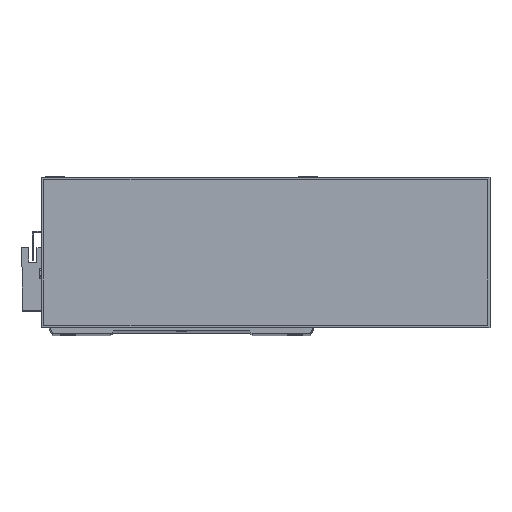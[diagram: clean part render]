
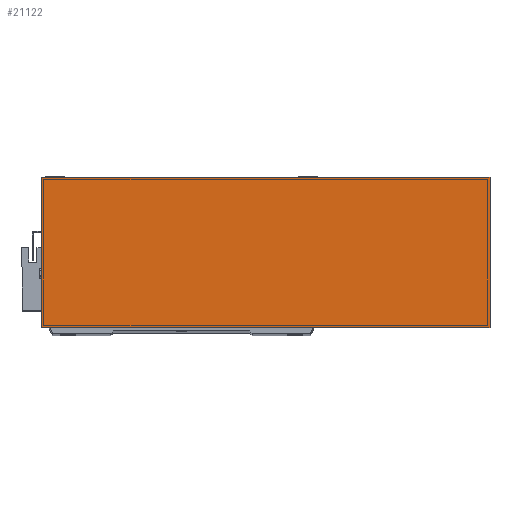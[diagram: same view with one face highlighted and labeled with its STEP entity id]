
A CAD part, top view. The second image highlights one B-rep face of the part: STEP entity #21122.
In plain terms, the highlighted planar face has unit normal (0, 0, 1).
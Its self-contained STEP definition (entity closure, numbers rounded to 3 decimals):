
#1015 = VECTOR ( 'NONE', #3880, 1000. ) ;
#1226 = ORIENTED_EDGE ( 'NONE', *, *, #3646, .T. ) ;
#2033 = VERTEX_POINT ( 'NONE', #19317 ) ;
#2436 = LINE ( 'NONE', #14945, #1015 ) ;
#3646 = EDGE_CURVE ( 'NONE', #5062, #15319, #16584, .T. ) ;
#3880 = DIRECTION ( 'NONE',  ( 1., 0., 0. ) ) ;
#4969 = CARTESIAN_POINT ( 'NONE',  ( 277., 93., 50. ) ) ;
#5062 = VERTEX_POINT ( 'NONE', #4969 ) ;
#6303 = EDGE_CURVE ( 'NONE', #15319, #2033, #15396, .T. ) ;
#6593 = CARTESIAN_POINT ( 'NONE',  ( 277., 0., 50. ) ) ;
#7018 = ORIENTED_EDGE ( 'NONE', *, *, #11866, .T. ) ;
#8293 = CARTESIAN_POINT ( 'NONE',  ( 277., 0., 50. ) ) ;
#9220 = LINE ( 'NONE', #8293, #9949 ) ;
#9810 = CARTESIAN_POINT ( 'NONE',  ( 0., 0., 50. ) ) ;
#9949 = VECTOR ( 'NONE', #25702, 1000. ) ;
#11671 = CARTESIAN_POINT ( 'NONE',  ( 0., 93., 50. ) ) ;
#11866 = EDGE_CURVE ( 'NONE', #20850, #5062, #9220, .T. ) ;
#12023 = DIRECTION ( 'NONE',  ( -1., 0., 0. ) ) ;
#13747 = CARTESIAN_POINT ( 'NONE',  ( 0., 0., 50. ) ) ;
#13769 = DIRECTION ( 'NONE',  ( 0., -1., 0. ) ) ;
#14271 = ORIENTED_EDGE ( 'NONE', *, *, #6303, .T. ) ;
#14945 = CARTESIAN_POINT ( 'NONE',  ( 0., 0., 50. ) ) ;
#15319 = VERTEX_POINT ( 'NONE', #21027 ) ;
#15396 = LINE ( 'NONE', #13747, #27729 ) ;
#15410 = EDGE_LOOP ( 'NONE', ( #14271, #24856, #7018, #1226 ) ) ;
#15508 = AXIS2_PLACEMENT_3D ( 'NONE', #9810, #25079, #12023 ) ;
#16584 = LINE ( 'NONE', #11671, #27544 ) ;
#16646 = DIRECTION ( 'NONE',  ( -1., 0., 0. ) ) ;
#17752 = FACE_OUTER_BOUND ( 'NONE', #15410, .T. ) ;
#18818 = EDGE_CURVE ( 'NONE', #2033, #20850, #2436, .T. ) ;
#19317 = CARTESIAN_POINT ( 'NONE',  ( 0., 0., 50. ) ) ;
#20850 = VERTEX_POINT ( 'NONE', #6593 ) ;
#21027 = CARTESIAN_POINT ( 'NONE',  ( 0., 93., 50. ) ) ;
#21122 = ADVANCED_FACE ( 'NONE', ( #17752 ), #22884, .F. ) ;
#22884 = PLANE ( 'NONE',  #15508 ) ;
#24856 = ORIENTED_EDGE ( 'NONE', *, *, #18818, .T. ) ;
#25079 = DIRECTION ( 'NONE',  ( 0., 0., -1. ) ) ;
#25702 = DIRECTION ( 'NONE',  ( 0., 1., 0. ) ) ;
#27544 = VECTOR ( 'NONE', #16646, 1000. ) ;
#27729 = VECTOR ( 'NONE', #13769, 1000. ) ;
